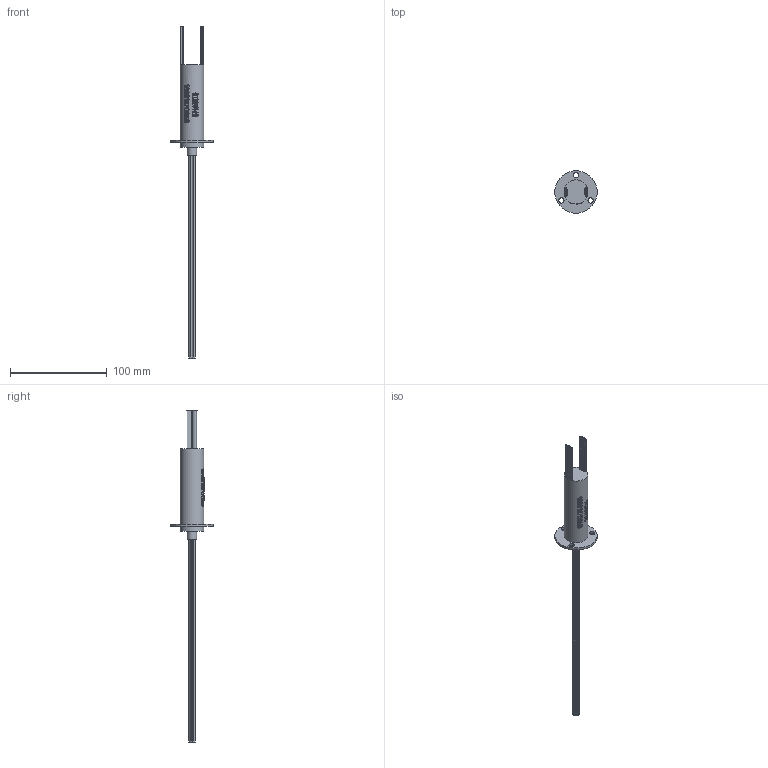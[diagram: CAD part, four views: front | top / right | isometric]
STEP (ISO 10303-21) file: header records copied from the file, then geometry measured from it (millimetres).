
FILE_DESCRIPTION(/* description */ (''),/* implementation_level */ '2;1');
FILE_NAME(/* name */ 'HM025-56-3D模型.stp',/* time_stamp */ '2025-09-05T08:33:30+08:00',/* author */ (''),/* organization */ (''),/* preprocessor_version */ 'ST-DEVELOPER v16.7',/* originating_system */ 'SIEMENS PLM Software NX 12.0',/* authorisation */ '');
FILE_SCHEMA (('AUTOMOTIVE_DESIGN { 1 0 10303 214 3 1 1 1 }'));
Length unit declared in the file: millimetre
Products named in the file (1): Admi30D0F0663a6w
Bounding box: 44 x 44 x 343.5 mm (x, y, z)
Volume: 51285.5 mm3; surface area: 44851.8 mm2
Topology: 1 solids, 1 shells, 763 faces, 1833 edges, 1223 vertices
Faces by surface type: extrusion 311, plane 297, cylinder 129, bspline 26
Full cylindrical faces by diameter (mm): 0.8 x111, 5.5 x3, 9.9 x1, 24.8 x2, 44 x1
Entity records: 27162 total; most frequent: CARTESIAN_POINT 11942, ORIENTED_EDGE 3424, DIRECTION 1999, EDGE_CURVE 1712, B_SPLINE_CURVE_WITH_KNOTS 1557, VERTEX_POINT 1220, EDGE_LOOP 1038, AXIS2_PLACEMENT_3D 795
